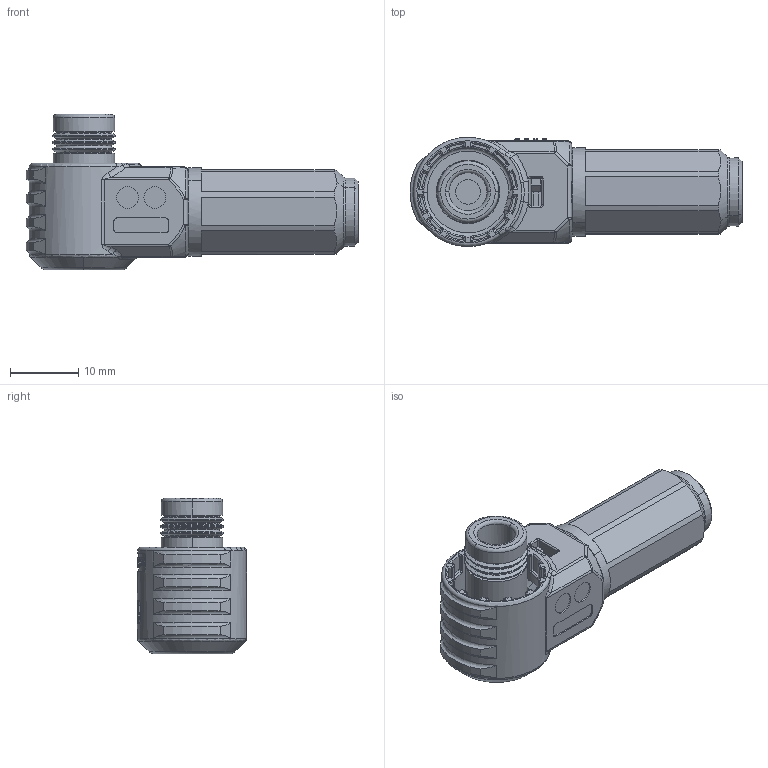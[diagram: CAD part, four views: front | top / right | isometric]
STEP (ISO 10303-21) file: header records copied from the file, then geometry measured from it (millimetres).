
FILE_DESCRIPTION((''),'2;1');
FILE_NAME('CT-P0136-A','2024-05-30T15:42:40',('xny-lf'),(''),'CREO PARAMETRIC BY PTC INC, 2018050','CREO PARAMETRIC BY PTC INC, 2018050','');
FILE_SCHEMA(('CONFIG_CONTROL_DESIGN'));
Length unit declared in the file: millimetre
Products named in the file (1): CT-P0136-A
Bounding box: 48.7 x 16 x 22.8 mm (x, y, z)
Volume: 6815.7 mm3; surface area: 5730.8 mm2
Topology: 1 solids, 3 shells, 846 faces, 2192 edges, 1334 vertices
Faces by surface type: cylinder 294, plane 233, torus 131, bspline 101, cone 48, sphere 37, extrusion 2
Entity records: 34450 total; most frequent: CARTESIAN_POINT 14606, ORIENTED_EDGE 4310, DIRECTION 4080, EDGE_CURVE 2155, AXIS2_PLACEMENT_3D 1679, VERTEX_POINT 1334, CIRCLE 936, EDGE_LOOP 877
